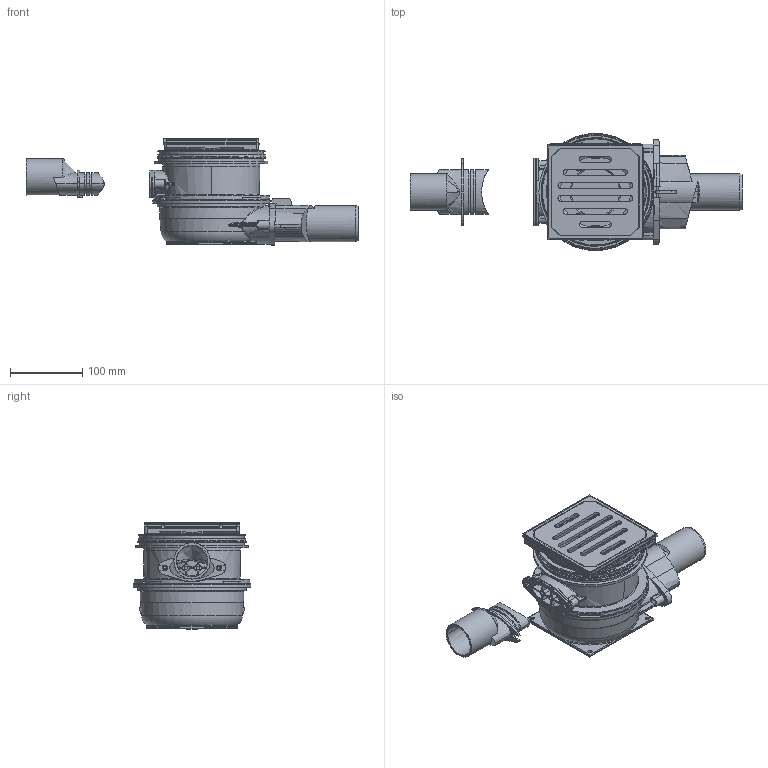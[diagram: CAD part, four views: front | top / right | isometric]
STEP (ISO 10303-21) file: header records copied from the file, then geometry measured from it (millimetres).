
FILE_DESCRIPTION(/* description */ (''),/* implementation_level */ '2;1');
FILE_NAME(/* name */ 'C:\Planerdaten\Upload\388.023.00.1\stp\388023.stp',/* time_stamp */ '2019-06-21T15:13:34+02:00',/* author */ ('JANAN'),/* organization */ (''),/* preprocessor_version */ 'ST-DEVELOPER v16.13',/* originating_system */ 'Autodesk Inventor 2018',/* authorisation */ '');
FILE_SCHEMA (('AUTOMOTIVE_DESIGN { 1 0 10303 214 3 1 1 }'));
Length unit declared in the file: millimetre
Products named in the file (2): Bodenablauf Varino horizontal d50; 388.023.00.1-1
Assembly tree (1 placements, depth 2):
  Bodenablauf Varino horizontal d50
    388.023.00.1-1
Bounding box: 458.5 x 162 x 146.99 mm (x, y, z)
Volume: 645318.6 mm3; surface area: 477087.6 mm2
Topology: 7 solids, 10 shells, 2861 faces, 7631 edges, 4831 vertices
Faces by surface type: bspline 1041, plane 832, cylinder 563, torus 240, sphere 100, cone 85
Full cylindrical faces by diameter (mm): 5.8 x4, 8.2 x2, 10 x3, 44 x1, 50 x2, 67 x1, 129.6 x1, 133.861 x1, 138.4 x1, 143.8 x1, 145 x1, 145.086 x1, 148.23 x1, 150 x2, 153 x1, 154 x1, 156 x1, 160 x1, 162 x1
Entity records: 216017 total; most frequent: CARTESIAN_POINT 148425, ORIENTED_EDGE 15028, DIRECTION 11200, EDGE_CURVE 7510, VERTEX_POINT 4809, AXIS2_PLACEMENT_3D 4144, EDGE_LOOP 3057, LINE 2912
